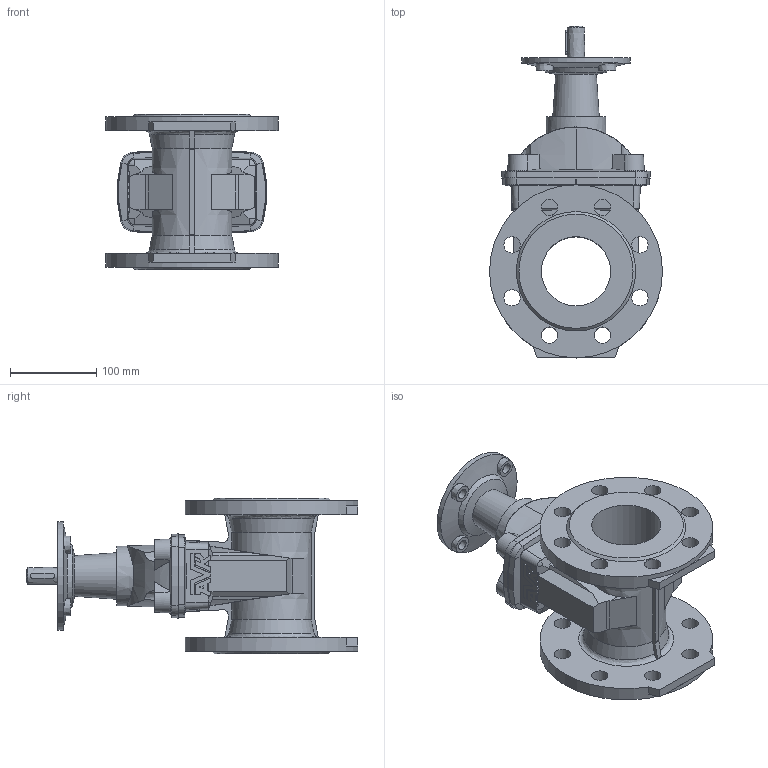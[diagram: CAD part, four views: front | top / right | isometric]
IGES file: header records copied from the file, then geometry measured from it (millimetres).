
Start section: SolidWorks IGES file using analytic representation for surfaces
Global section: file name: \\avksan2\techshare\PBM outline export from Enovia\O_15_42_DN080_X1XXX099_AA0.igs; native system: SolidWorks 2012; preprocessor: SolidWorks 2012; author: pbm; date: 170310.090935; units: inch
Bounding box: 200 x 383.85 x 180 mm (x, y, z)
Surface area: 330204.4 mm2 (no closed solid volume)
Topology: 0 solids, 0 shells, 298 faces, 1664 edges, 1592 vertices
Faces by surface type: revolution 162, bspline 136
